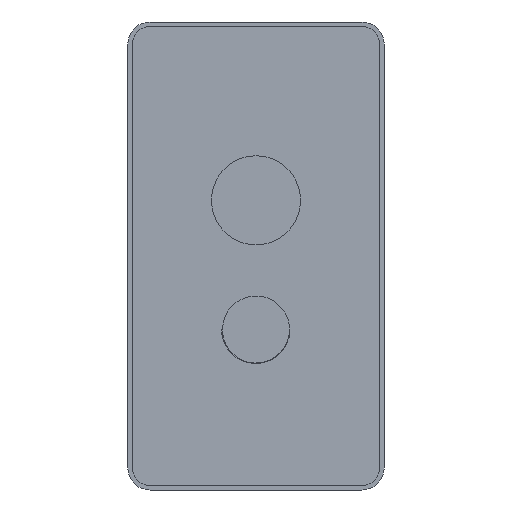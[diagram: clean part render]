
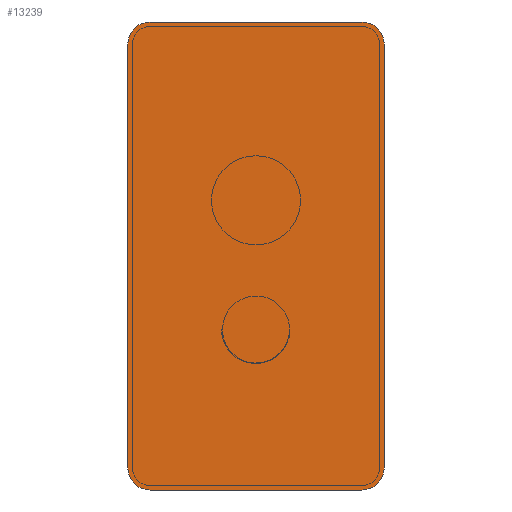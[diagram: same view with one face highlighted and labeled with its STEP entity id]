
A CAD part, front view. The second image highlights one B-rep face of the part: STEP entity #13239.
In plain terms, the highlighted planar face has unit normal (0, -1, 0).
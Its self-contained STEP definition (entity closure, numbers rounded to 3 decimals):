
#2454=CARTESIAN_POINT('',(47.5,0.,-95.));
#2455=DIRECTION('',(0.,-1.,0.));
#2456=DIRECTION('',(0.,0.,-1.));
#2457=AXIS2_PLACEMENT_3D('',#2454,#2455,#2456);
#2459=DIRECTION('',(-1.,0.,0.));
#2460=VECTOR('',#2459,95.);
#2461=CARTESIAN_POINT('',(47.5,0.,-105.));
#2462=LINE('',#2461,#2460);
#2463=CARTESIAN_POINT('',(-47.5,0.,-95.));
#2464=DIRECTION('',(0.,-1.,0.));
#2465=DIRECTION('',(-1.,0.,0.));
#2466=AXIS2_PLACEMENT_3D('',#2463,#2464,#2465);
#2468=DIRECTION('',(0.,0.,1.));
#2469=VECTOR('',#2468,190.);
#2470=CARTESIAN_POINT('',(-57.5,0.,-95.));
#2471=LINE('',#2470,#2469);
#2472=CARTESIAN_POINT('',(-47.5,0.,95.));
#2473=DIRECTION('',(0.,-1.,0.));
#2474=DIRECTION('',(0.,0.,1.));
#2475=AXIS2_PLACEMENT_3D('',#2472,#2473,#2474);
#2477=DIRECTION('',(1.,0.,0.));
#2478=VECTOR('',#2477,95.);
#2479=CARTESIAN_POINT('',(-47.5,0.,105.));
#2480=LINE('',#2479,#2478);
#2481=CARTESIAN_POINT('',(47.5,0.,95.));
#2482=DIRECTION('',(0.,-1.,0.));
#2483=DIRECTION('',(1.,0.,0.));
#2484=AXIS2_PLACEMENT_3D('',#2481,#2482,#2483);
#2486=DIRECTION('',(0.,0.,-1.));
#2487=VECTOR('',#2486,190.);
#2488=CARTESIAN_POINT('',(57.5,0.,95.));
#2489=LINE('',#2488,#2487);
#9544=CARTESIAN_POINT('',(47.5,0.,-105.));
#9545=CARTESIAN_POINT('',(57.5,0.,-95.));
#9546=VERTEX_POINT('',#9544);
#9547=VERTEX_POINT('',#9545);
#9548=CARTESIAN_POINT('',(-57.5,0.,-95.));
#9549=CARTESIAN_POINT('',(-47.5,0.,-105.));
#9550=VERTEX_POINT('',#9548);
#9551=VERTEX_POINT('',#9549);
#9552=CARTESIAN_POINT('',(57.5,0.,95.));
#9553=CARTESIAN_POINT('',(47.5,0.,105.));
#9554=VERTEX_POINT('',#9552);
#9555=VERTEX_POINT('',#9553);
#9556=CARTESIAN_POINT('',(-47.5,0.,105.));
#9557=CARTESIAN_POINT('',(-57.5,0.,95.));
#9558=VERTEX_POINT('',#9556);
#9559=VERTEX_POINT('',#9557);
#13224=CARTESIAN_POINT('',(0.,0.,0.));
#13225=DIRECTION('',(0.,1.,0.));
#13226=DIRECTION('',(1.,0.,0.));
#13227=AXIS2_PLACEMENT_3D('',#13224,#13225,#13226);
#13228=PLANE('',#13227);
#13229=ORIENTED_EDGE('',*,*,#13120,.F.);
#13230=ORIENTED_EDGE('',*,*,#13135,.T.);
#13231=ORIENTED_EDGE('',*,*,#13149,.F.);
#13232=ORIENTED_EDGE('',*,*,#13163,.T.);
#13233=ORIENTED_EDGE('',*,*,#13177,.F.);
#13234=ORIENTED_EDGE('',*,*,#13191,.T.);
#13235=ORIENTED_EDGE('',*,*,#13205,.F.);
#13236=ORIENTED_EDGE('',*,*,#13218,.T.);
#13237=EDGE_LOOP('',(#13229,#13230,#13231,#13232,#13233,#13234,#13235,#13236));
#13238=FACE_OUTER_BOUND('',#13237,.F.);
#13239=ADVANCED_FACE('',(#13238),#13228,.F.);
#2458=CIRCLE('',#2457,10.);
#2467=CIRCLE('',#2466,10.);
#2476=CIRCLE('',#2475,10.);
#2485=CIRCLE('',#2484,10.);
#13120=EDGE_CURVE('',#9546,#9547,#2458,.T.);
#13135=EDGE_CURVE('',#9546,#9551,#2462,.T.);
#13149=EDGE_CURVE('',#9550,#9551,#2467,.T.);
#13163=EDGE_CURVE('',#9550,#9559,#2471,.T.);
#13177=EDGE_CURVE('',#9558,#9559,#2476,.T.);
#13191=EDGE_CURVE('',#9558,#9555,#2480,.T.);
#13205=EDGE_CURVE('',#9554,#9555,#2485,.T.);
#13218=EDGE_CURVE('',#9554,#9547,#2489,.T.);
